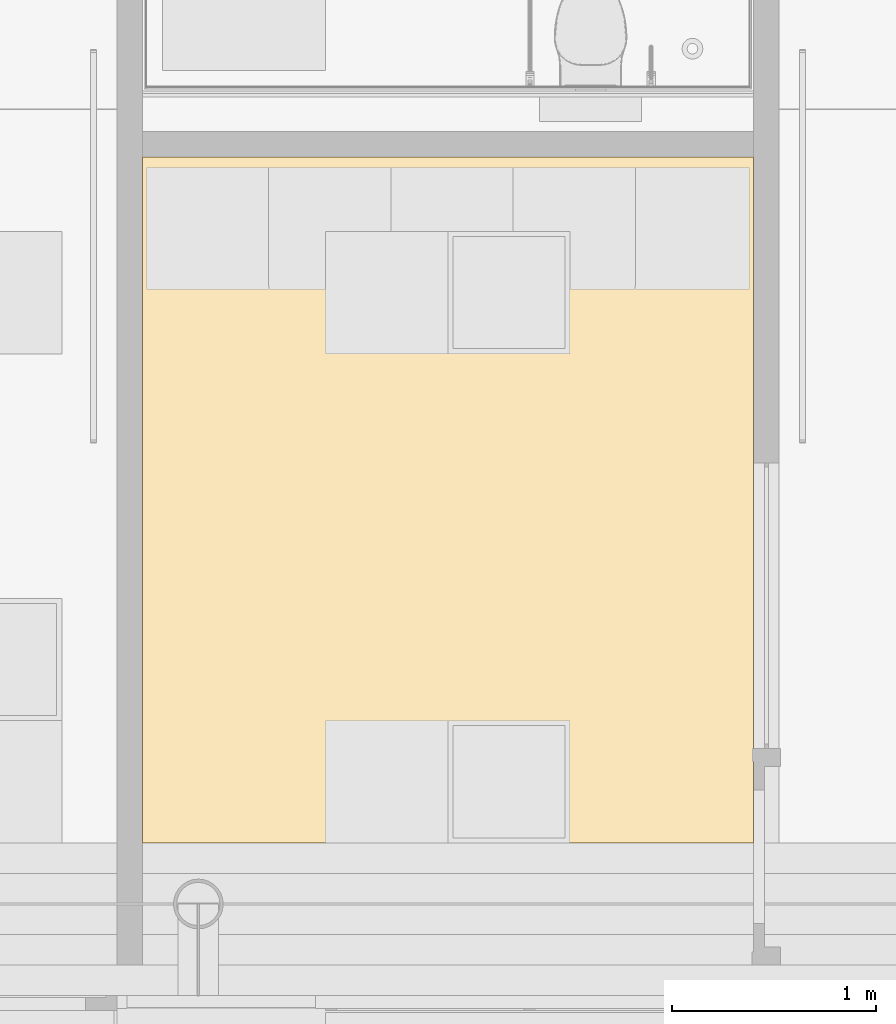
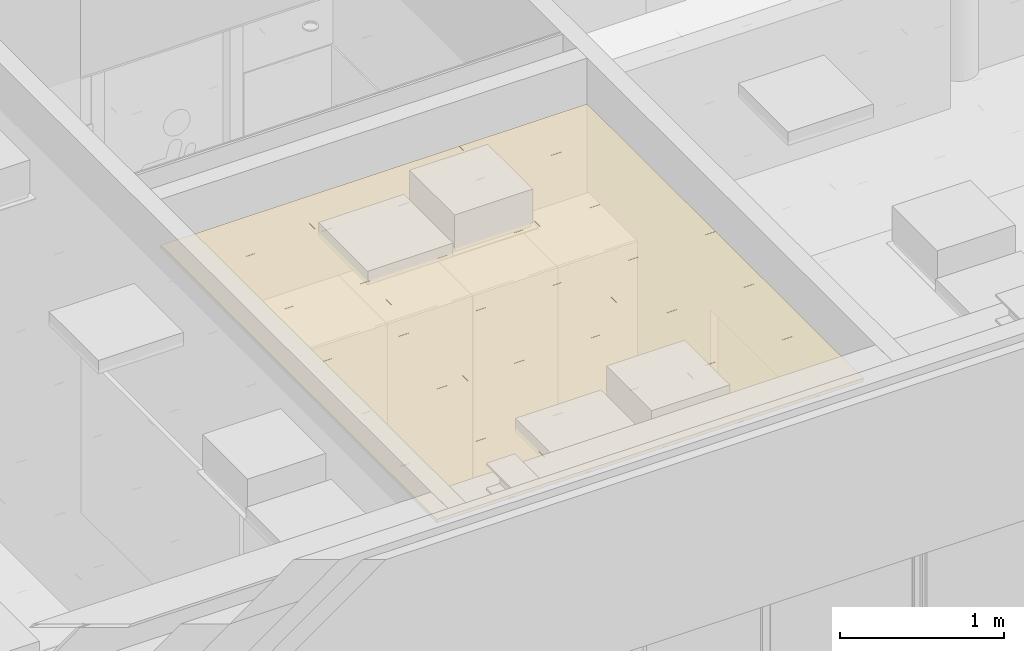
# One storey, part 162 of 347: 1 covering.
"""IFC2X3 building model written with IfcOpenShell, lengths in millimetres."""

from ifc_helpers import new_model, entity, si_unit, converted_unit, derived_unit, money_unit, direction, frame, origin_with_axes, place, context, subcontext, project, spatial, faceted_brep, type_object, element, save


model = new_model("IFC2X3")

# Units and contexts
model_context = context("Model", 3, precision=0.01, world=origin_with_axes(), true_north=direction((0.0, 1.0)))
plan_context = context("Plan", 3, precision=0.01, world=origin_with_axes(), true_north=direction((0.0, 1.0)))
body_context = subcontext(model_context, "Body", "Model", "MODEL_VIEW")
ifc_project = project(units=[si_unit("LENGTHUNIT", "METRE", prefix="MILLI"), si_unit("AREAUNIT", "SQUARE_METRE"), si_unit("VOLUMEUNIT", "CUBIC_METRE"), converted_unit("PLANEANGLEUNIT", "DEGREE", entity("IfcPlaneAngleMeasure", 0.0174532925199), si_unit("PLANEANGLEUNIT", "RADIAN"), dimensions=[0, 0, 0, 0, 0, 0, 0]), money_unit("EUR"), converted_unit("TIMEUNIT", "Year", entity("IfcTimeMeasure", 31556926.0), si_unit("TIMEUNIT", "SECOND"), dimensions=[0, 0, 1, 0, 0, 0, 0]), si_unit("MASSUNIT", "GRAM", prefix="KILO"), si_unit("THERMODYNAMICTEMPERATUREUNIT", "DEGREE_CELSIUS"), si_unit("LUMINOUSINTENSITYUNIT", "LUMEN"), si_unit("ENERGYUNIT", "JOULE", prefix="MEGA"), derived_unit("THERMALCONDUCTANCEUNIT", [(si_unit("POWERUNIT", "WATT"), 1), (si_unit("LENGTHUNIT", "METRE"), -1), (si_unit("THERMODYNAMICTEMPERATUREUNIT", "KELVIN"), -1)]), derived_unit("SPECIFICHEATCAPACITYUNIT", [(si_unit("ENERGYUNIT", "JOULE"), 1), (si_unit("MASSUNIT", "GRAM", prefix="KILO"), -1), (si_unit("THERMODYNAMICTEMPERATUREUNIT", "KELVIN"), -1)]), derived_unit("MASSDENSITYUNIT", [(si_unit("MASSUNIT", "GRAM", prefix="KILO"), 1), (si_unit("VOLUMEUNIT", "CUBIC_METRE"), -1)])], contexts=[model_context, plan_context])

# Site, building, storey
site_placement = place(None, origin_with_axes())
site = spatial("IfcSite", under=ifc_project, at=site_placement, Name="Site", CompositionType="ELEMENT")
building_placement = place(site_placement, origin_with_axes())
building = spatial("IfcBuilding", under=site, at=building_placement, Name="Naam gebouw", CompositionType="ELEMENT")
storey_placement = place(building_placement, origin_with_axes())
storey = spatial("IfcBuildingStorey", under=building, at=storey_placement, Name="begane grond", CompositionType="ELEMENT", Elevation=0.0)

# Covering
covering_type = type_object("IfcCoveringType", Name="Ceiling Editor INT_v2.01", PredefinedType="CEILING")
covering_placement = place(storey_placement, frame((24300.0, 5599.99997201, 3200.0), z_axis=(0.0, 0.0, 1.0), x_axis=(1.0, 0.0, 0.0)))
element("IfcCovering", 1, at=covering_placement, inside=storey, type_object=covering_type, Name="45 Plafondafwerkingen_77 garderobe", PredefinedType="CEILING", context=body_context, shape_type="Brep", body=[
    faceted_brep([(0.0, 599.9, 0.0), (0.0, 599.9, 20.0), (899.9, 599.9, 20.0), (899.9, 599.9, 0.0), (0.0, 0.100000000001, 0.0), (0.0, 0.100000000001, 20.0), (899.9, 0.100000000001, 20.0), (899.9, 0.100000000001, 0.0)], [[[0, 1, 2, 3]], [[1, 0, 4, 5]], [[1, 5, 6, 2]], [[6, 7, 3, 2]], [[4, 0, 3, 7]], [[5, 4, 7, 6]]]),
    faceted_brep([(0.0, 1199.9, 0.0), (0.0, 1199.9, 20.0), (899.9, 1199.9, 20.0), (899.9, 1199.9, 0.0), (0.0, 841.250006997, 0.0), (0.0, 841.250006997, 20.0), (0.0, 600.1, 20.0), (899.9, 600.1, 20.0), (899.9, 600.1, 0.0), (0.0, 600.1, 0.0)], [[[0, 1, 2, 3]], [[1, 0, 4, 5]], [[5, 6, 7, 2, 1]], [[7, 8, 3, 2]], [[4, 0, 3, 8, 9]], [[6, 5, 4, 9]], [[6, 9, 8, 7]]]),
    faceted_brep([(0.0, 1799.9, 0.0), (0.0, 1799.9, 20.0), (899.9, 1799.9, 20.0), (899.9, 1799.9, 0.0), (0.0, 1682.50001399, 0.0), (0.0, 1682.50001399, 20.0), (0.0, 1200.1, 20.0), (899.9, 1200.1, 20.0), (899.9, 1200.1, 0.0), (0.0, 1200.1, 0.0)], [[[0, 1, 2, 3]], [[1, 0, 4, 5]], [[5, 6, 7, 2, 1]], [[7, 8, 3, 2]], [[4, 0, 3, 8, 9]], [[6, 5, 4, 9]], [[6, 9, 8, 7]]]),
    faceted_brep([(0.0, 2399.9, 0.0), (0.0, 2399.9, 20.0), (899.9, 2399.9, 20.0), (899.9, 2399.9, 0.0), (0.0, 1800.1, 0.0), (0.0, 1800.1, 20.0), (899.9, 1800.1, 20.0), (899.9, 1800.1, 0.0)], [[[0, 1, 2, 3]], [[1, 0, 4, 5]], [[1, 5, 6, 2]], [[6, 7, 3, 2]], [[4, 0, 3, 7]], [[5, 4, 7, 6]]]),
    faceted_brep([(0.0, 2999.9, 0.0), (0.0, 2999.9, 20.0), (899.9, 2999.9, 20.0), (899.9, 2999.9, 0.0), (0.0, 2523.75002099, 0.0), (0.0, 2523.75002099, 20.0), (0.0, 2400.1, 20.0), (899.9, 2400.1, 20.0), (899.9, 2400.1, 0.0), (0.0, 2400.1, 0.0)], [[[0, 1, 2, 3]], [[1, 0, 4, 5]], [[5, 6, 7, 2, 1]], [[7, 8, 3, 2]], [[4, 0, 3, 8, 9]], [[6, 5, 4, 9]], [[6, 9, 8, 7]]]),
    faceted_brep([(899.9, 3365.00002799, 0.0), (899.9, 3365.00002799, 20.0), (899.9, 3000.1, 20.0), (899.9, 3000.1, 0.0), (750.0, 3365.00002799, 0.0), (750.0, 3365.00002799, 20.0), (0.0, 3365.00002799, 20.0), (0.0, 3000.1, 20.0), (0.0, 3000.1, 0.0), (0.0, 3365.00002799, 0.0)], [[[0, 1, 2, 3]], [[1, 0, 4, 5]], [[6, 7, 2, 1, 5]], [[7, 8, 3, 2]], [[4, 0, 3, 8, 9]], [[6, 5, 4, 9]], [[7, 6, 9, 8]]]),
    faceted_brep([(2099.9, 0.100000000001, 20.0), (2099.9, 0.100000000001, 0.0), (2099.9, 599.9, 0.0), (2099.9, 599.9, 20.0), (900.1, 0.100000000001, 20.0), (900.1, 0.100000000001, 0.0), (900.1, 599.9, 0.0), (900.1, 599.9, 20.0)], [[[0, 1, 2, 3]], [[4, 5, 1, 0]], [[2, 1, 5, 6]], [[3, 2, 6, 7]], [[4, 0, 3, 7]], [[7, 6, 5, 4]]]),
    faceted_brep([(2099.9, 600.1, 20.0), (2099.9, 600.1, 0.0), (2099.9, 1199.9, 0.0), (2099.9, 1199.9, 20.0), (900.1, 600.1, 20.0), (900.1, 600.1, 0.0), (900.1, 1199.9, 0.0), (900.1, 1199.9, 20.0)], [[[0, 1, 2, 3]], [[4, 5, 1, 0]], [[2, 1, 5, 6]], [[3, 2, 6, 7]], [[4, 0, 3, 7]], [[7, 6, 5, 4]]]),
    faceted_brep([(2099.9, 1200.1, 20.0), (2099.9, 1200.1, 0.0), (2099.9, 1799.9, 0.0), (2099.9, 1799.9, 20.0), (900.1, 1200.1, 20.0), (900.1, 1200.1, 0.0), (900.1, 1799.9, 0.0), (900.1, 1799.9, 20.0)], [[[0, 1, 2, 3]], [[4, 5, 1, 0]], [[2, 1, 5, 6]], [[3, 2, 6, 7]], [[4, 0, 3, 7]], [[7, 6, 5, 4]]]),
    faceted_brep([(2099.9, 1800.1, 20.0), (2099.9, 1800.1, 0.0), (2099.9, 2399.9, 0.0), (2099.9, 2399.9, 20.0), (900.1, 1800.1, 20.0), (900.1, 1800.1, 0.0), (900.1, 2399.9, 0.0), (900.1, 2399.9, 20.0)], [[[0, 1, 2, 3]], [[4, 5, 1, 0]], [[2, 1, 5, 6]], [[3, 2, 6, 7]], [[4, 0, 3, 7]], [[7, 6, 5, 4]]]),
    faceted_brep([(2099.9, 2400.1, 20.0), (2099.9, 2400.1, 0.0), (2099.9, 2999.9, 0.0), (2099.9, 2999.9, 20.0), (900.1, 2400.1, 20.0), (900.1, 2400.1, 0.0), (900.1, 2999.9, 0.0), (900.1, 2999.9, 20.0)], [[[0, 1, 2, 3]], [[4, 5, 1, 0]], [[2, 1, 5, 6]], [[3, 2, 6, 7]], [[4, 0, 3, 7]], [[7, 6, 5, 4]]]),
    faceted_brep([(2099.9, 3365.00002799, 0.0), (2099.9, 3365.00002799, 20.0), (2099.9, 3000.1, 20.0), (2099.9, 3000.1, 0.0), (1500.0, 3365.00002799, 0.0), (1500.0, 3365.00002799, 20.0), (900.1, 3365.00002799, 20.0), (900.1, 3000.1, 20.0), (900.1, 3000.1, 0.0), (900.1, 3365.00002799, 0.0)], [[[0, 1, 2, 3]], [[1, 0, 4, 5]], [[5, 6, 7, 2, 1]], [[7, 8, 3, 2]], [[4, 0, 3, 8, 9]], [[6, 5, 4, 9]], [[6, 9, 8, 7]]]),
    faceted_brep([(3000.0, 0.100000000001, 20.0), (3000.0, 599.9, 20.0), (2100.1, 599.9, 20.0), (2100.1, 0.100000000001, 20.0), (3000.0, 0.100000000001, 0.0), (3000.0, 599.9, 0.0), (2100.1, 599.9, 0.0), (2100.1, 0.100000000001, 0.0)], [[[0, 1, 2, 3]], [[1, 0, 4, 5]], [[1, 5, 6, 2]], [[2, 6, 7, 3]], [[4, 0, 3, 7]], [[5, 4, 7, 6]]]),
    faceted_brep([(3000.0, 841.250006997, 20.0), (3000.0, 1199.9, 20.0), (2100.1, 1199.9, 20.0), (2100.1, 600.1, 20.0), (3000.0, 600.1, 20.0), (3000.0, 841.250006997, 0.0), (3000.0, 1199.9, 0.0), (2100.1, 1199.9, 0.0), (2100.1, 600.1, 0.0), (3000.0, 600.1, 0.0)], [[[0, 1, 2, 3, 4]], [[1, 0, 5, 6]], [[1, 6, 7, 2]], [[2, 7, 8, 3]], [[9, 4, 3, 8]], [[0, 4, 9, 5]], [[5, 9, 8, 7, 6]]]),
    faceted_brep([(3000.0, 1682.50001399, 20.0), (3000.0, 1799.9, 20.0), (2100.1, 1799.9, 20.0), (2100.1, 1200.1, 20.0), (3000.0, 1200.1, 20.0), (3000.0, 1682.50001399, 0.0), (3000.0, 1799.9, 0.0), (2100.1, 1799.9, 0.0), (2100.1, 1200.1, 0.0), (3000.0, 1200.1, 0.0)], [[[0, 1, 2, 3, 4]], [[1, 0, 5, 6]], [[1, 6, 7, 2]], [[2, 7, 8, 3]], [[9, 4, 3, 8]], [[0, 4, 9, 5]], [[5, 9, 8, 7, 6]]]),
    faceted_brep([(3000.0, 1800.1, 20.0), (3000.0, 2399.9, 20.0), (2100.1, 2399.9, 20.0), (2100.1, 1800.1, 20.0), (3000.0, 1800.1, 0.0), (3000.0, 2399.9, 0.0), (2100.1, 2399.9, 0.0), (2100.1, 1800.1, 0.0)], [[[0, 1, 2, 3]], [[1, 0, 4, 5]], [[1, 5, 6, 2]], [[2, 6, 7, 3]], [[4, 0, 3, 7]], [[5, 4, 7, 6]]]),
    faceted_brep([(3000.0, 2523.75002099, 20.0), (3000.0, 2999.9, 20.0), (2100.1, 2999.9, 20.0), (2100.1, 2400.1, 20.0), (3000.0, 2400.1, 20.0), (3000.0, 2523.75002099, 0.0), (3000.0, 2999.9, 0.0), (2100.1, 2999.9, 0.0), (2100.1, 2400.1, 0.0), (3000.0, 2400.1, 0.0)], [[[0, 1, 2, 3, 4]], [[1, 0, 5, 6]], [[1, 6, 7, 2]], [[2, 7, 8, 3]], [[9, 4, 3, 8]], [[0, 4, 9, 5]], [[5, 9, 8, 7, 6]]]),
    faceted_brep([(3000.0, 3000.1, 20.0), (3000.0, 3365.00002799, 20.0), (2250.0, 3365.00002799, 20.0), (2100.1, 3365.00002799, 20.0), (2100.1, 3000.1, 20.0), (3000.0, 3000.1, 0.0), (3000.0, 3365.00002799, 0.0), (2250.0, 3365.00002799, 0.0), (2100.1, 3365.00002799, 0.0), (2100.1, 3000.1, 0.0)], [[[0, 1, 2, 3, 4]], [[1, 0, 5, 6]], [[2, 1, 6, 7]], [[3, 2, 7, 8]], [[3, 8, 9, 4]], [[5, 0, 4, 9]], [[6, 5, 9, 8, 7]]]),
    faceted_brep([(887.5, 25.0, -5.0), (887.5, 25.0, 0.0), (887.5, 587.5, 0.0), (887.5, 587.5, -5.0), (25.0, 25.0, -5.0), (25.0, 25.0, 0.0), (3000.0, 1187.5, 0.0), (3000.0, 1212.5, 0.0), (3000.0, 1787.5, 0.0), (3000.0, 1812.5, 0.0), (3000.0, 2387.5, 0.0), (3000.0, 2412.5, 0.0), (3000.0, 2987.5, 0.0), (3000.0, 3012.5, 0.0), (3000.0, 3365.00002799, 0.0), (2112.5, 3365.00002799, 0.0), (2087.5, 3365.00002799, 0.0), (912.5, 3365.00002799, 0.0), (887.5, 3365.00002799, 0.0), (0.0, 3365.00002799, 0.0), (0.0, 3012.5, 0.0), (0.0, 2987.5, 0.0), (0.0, 2412.5, 0.0), (0.0, 2387.5, 0.0), (0.0, 1812.5, 0.0), (0.0, 1787.5, 0.0), (0.0, 1212.5, 0.0), (0.0, 1187.5, 0.0), (0.0, 612.5, 0.0), (0.0, 587.5, 0.0), (0.0, 12.5, 0.0), (0.0, 0.0, 0.0), (750.0, 0.0, 0.0), (1500.0, 0.0, 0.0), (2250.0, 0.0, 0.0), (3000.0, 0.0, 0.0), (3000.0, 12.5, 0.0), (3000.0, 587.5, 0.0), (3000.0, 612.5, 0.0), (912.5, 25.0, 0.0), (912.5, 587.5, 0.0), (2087.5, 587.5, 0.0), (2087.5, 25.0, 0.0), (912.5, 1187.5, 0.0), (2087.5, 1187.5, 0.0), (2087.5, 612.5, 0.0), (912.5, 612.5, 0.0), (912.5, 1787.5, 0.0), (2087.5, 1787.5, 0.0), (2087.5, 1212.5, 0.0), (912.5, 1212.5, 0.0), (912.5, 2387.5, 0.0), (2087.5, 2387.5, 0.0), (2087.5, 1812.5, 0.0), (912.5, 1812.5, 0.0), (912.5, 2987.5, 0.0), (2087.5, 2987.5, 0.0), (2087.5, 2412.5, 0.0), (912.5, 2412.5, 0.0), (25.0, 587.5, 0.0), (25.0, 1187.5, 0.0), (887.5, 1187.5, 0.0), (887.5, 612.5, 0.0), (25.0, 612.5, 0.0), (25.0, 1787.5, 0.0), (887.5, 1787.5, 0.0), (887.5, 1212.5, 0.0), (25.0, 1212.5, 0.0), (25.0, 2387.5, 0.0), (887.5, 2387.5, 0.0), (887.5, 1812.5, 0.0), (25.0, 1812.5, 0.0), (25.0, 2987.5, 0.0), (887.5, 2987.5, 0.0), (887.5, 2412.5, 0.0), (25.0, 2412.5, 0.0), (887.5, 3340.00002799, 0.0), (887.5, 3012.5, 0.0), (25.0, 3012.5, 0.0), (25.0, 3340.00002799, 0.0), (2087.5, 3340.00002799, 0.0), (2087.5, 3012.5, 0.0), (912.5, 3012.5, 0.0), (912.5, 3340.00002799, 0.0), (2975.0, 3340.00002799, 0.0), (2975.0, 3012.5, 0.0), (2112.5, 3012.5, 0.0), (2112.5, 3340.00002799, 0.0), (2975.0, 2387.5, 0.0), (2975.0, 1812.5, 0.0), (2112.5, 1812.5, 0.0), (2112.5, 2387.5, 0.0), (2975.0, 2412.5, 0.0), (2112.5, 2412.5, 0.0), (2112.5, 2987.5, 0.0), (2975.0, 2987.5, 0.0), (2975.0, 1212.5, 0.0), (2112.5, 1212.5, 0.0), (2112.5, 1787.5, 0.0), (2975.0, 1787.5, 0.0), (2112.5, 25.0, 0.0), (2112.5, 587.5, 0.0), (2975.0, 587.5, 0.0), (2975.0, 25.0, 0.0), (2975.0, 612.5, 0.0), (2112.5, 612.5, 0.0), (2112.5, 1187.5, 0.0), (2975.0, 1187.5, 0.0), (25.0, 587.5, -5.0), (3000.0, 612.5, -5.0), (3000.0, 587.5, -5.0), (3000.0, 12.5, -5.0), (3000.0, 0.0, -5.0), (2250.0, 0.0, -5.0), (1500.0, 0.0, -5.0), (750.0, 0.0, -5.0), (0.0, 0.0, -5.0), (0.0, 12.5, -5.0), (0.0, 587.5, -5.0), (0.0, 612.5, -5.0), (0.0, 1187.5, -5.0), (0.0, 1212.5, -5.0), (0.0, 1787.5, -5.0), (0.0, 1812.5, -5.0), (0.0, 2387.5, -5.0), (0.0, 2412.5, -5.0), (0.0, 2987.5, -5.0), (0.0, 3012.5, -5.0), (0.0, 3365.00002799, -5.0), (887.5, 3365.00002799, -5.0), (912.5, 3365.00002799, -5.0), (2087.5, 3365.00002799, -5.0), (2112.5, 3365.00002799, -5.0), (3000.0, 3365.00002799, -5.0), (3000.0, 3012.5, -5.0), (3000.0, 2987.5, -5.0), (3000.0, 2412.5, -5.0), (3000.0, 2387.5, -5.0), (3000.0, 1812.5, -5.0), (3000.0, 1787.5, -5.0), (3000.0, 1212.5, -5.0), (3000.0, 1187.5, -5.0), (2087.5, 25.0, -5.0), (2087.5, 587.5, -5.0), (912.5, 587.5, -5.0), (912.5, 25.0, -5.0), (2087.5, 612.5, -5.0), (2087.5, 1187.5, -5.0), (912.5, 1187.5, -5.0), (912.5, 612.5, -5.0), (2087.5, 1212.5, -5.0), (2087.5, 1787.5, -5.0), (912.5, 1787.5, -5.0), (912.5, 1212.5, -5.0), (2087.5, 1812.5, -5.0), (2087.5, 2387.5, -5.0), (912.5, 2387.5, -5.0), (912.5, 1812.5, -5.0), (2087.5, 2412.5, -5.0), (2087.5, 2987.5, -5.0), (912.5, 2987.5, -5.0), (912.5, 2412.5, -5.0), (25.0, 1187.5, -5.0), (25.0, 612.5, -5.0), (887.5, 612.5, -5.0), (887.5, 1187.5, -5.0), (25.0, 1787.5, -5.0), (25.0, 1212.5, -5.0), (887.5, 1212.5, -5.0), (887.5, 1787.5, -5.0), (25.0, 2387.5, -5.0), (25.0, 1812.5, -5.0), (887.5, 1812.5, -5.0), (887.5, 2387.5, -5.0), (25.0, 2987.5, -5.0), (25.0, 2412.5, -5.0), (887.5, 2412.5, -5.0), (887.5, 2987.5, -5.0), (887.5, 3340.00002799, -5.0), (25.0, 3340.00002799, -5.0), (25.0, 3012.5, -5.0), (887.5, 3012.5, -5.0), (2087.5, 3340.00002799, -5.0), (912.5, 3340.00002799, -5.0), (912.5, 3012.5, -5.0), (2087.5, 3012.5, -5.0), (2975.0, 3340.00002799, -5.0), (2112.5, 3340.00002799, -5.0), (2112.5, 3012.5, -5.0), (2975.0, 3012.5, -5.0), (2975.0, 2387.5, -5.0), (2112.5, 2387.5, -5.0), (2112.5, 1812.5, -5.0), (2975.0, 1812.5, -5.0), (2975.0, 2987.5, -5.0), (2112.5, 2987.5, -5.0), (2112.5, 2412.5, -5.0), (2975.0, 2412.5, -5.0), (2975.0, 1787.5, -5.0), (2112.5, 1787.5, -5.0), (2112.5, 1212.5, -5.0), (2975.0, 1212.5, -5.0), (2975.0, 25.0, -5.0), (2975.0, 587.5, -5.0), (2112.5, 587.5, -5.0), (2112.5, 25.0, -5.0), (2975.0, 1187.5, -5.0), (2112.5, 1187.5, -5.0), (2112.5, 612.5, -5.0), (2975.0, 612.5, -5.0)], [[[0, 1, 2, 3]], [[1, 0, 4, 5]], [[6, 7, 8, 9, 10, 11, 12, 13, 14, 15, 16, 17, 18, 19, 20, 21, 22, 23, 24, 25, 26, 27, 28, 29, 30, 31, 32, 33, 34, 35, 36, 37, 38], [39, 40, 41, 42], [43, 44, 45, 46], [47, 48, 49, 50], [51, 52, 53, 54], [55, 56, 57, 58], [1, 5, 59, 2], [60, 61, 62, 63], [64, 65, 66, 67], [68, 69, 70, 71], [72, 73, 74, 75], [76, 77, 78, 79], [80, 81, 82, 83], [84, 85, 86, 87], [88, 89, 90, 91], [92, 93, 94, 95], [96, 97, 98, 99], [100, 101, 102, 103], [104, 105, 106, 107]], [[59, 108, 3, 2]], [[109, 110, 111, 112, 113, 114, 115, 116, 117, 118, 119, 120, 121, 122, 123, 124, 125, 126, 127, 128, 129, 130, 131, 132, 133, 134, 135, 136, 137, 138, 139, 140, 141], [142, 143, 144, 145], [146, 147, 148, 149], [150, 151, 152, 153], [154, 155, 156, 157], [158, 159, 160, 161], [0, 3, 108, 4], [162, 163, 164, 165], [166, 167, 168, 169], [170, 171, 172, 173], [174, 175, 176, 177], [178, 179, 180, 181], [182, 183, 184, 185], [186, 187, 188, 189], [190, 191, 192, 193], [194, 195, 196, 197], [198, 199, 200, 201], [202, 203, 204, 205], [206, 207, 208, 209]], [[108, 59, 5, 4]], [[109, 141, 140, 139, 138, 137, 136, 135, 134, 133, 14, 13, 12, 11, 10, 9, 8, 7, 6, 38, 37, 36, 35, 112, 111, 110]], [[14, 133, 132, 131, 130, 129, 128, 19, 18, 17, 16, 15]], [[19, 128, 127, 126, 125, 124, 123, 122, 121, 120, 119, 118, 117, 116, 31, 30, 29, 28, 27, 26, 25, 24, 23, 22, 21, 20]], [[116, 115, 32, 31]], [[114, 33, 32, 115]], [[113, 34, 33, 114]], [[113, 112, 35, 34]], [[39, 145, 144, 40]], [[144, 143, 41, 40]], [[142, 42, 41, 143]], [[39, 42, 142, 145]], [[148, 147, 44, 43]], [[45, 44, 147, 146]], [[46, 45, 146, 149]], [[149, 148, 43, 46]], [[152, 151, 48, 47]], [[49, 48, 151, 150]], [[50, 49, 150, 153]], [[153, 152, 47, 50]], [[156, 155, 52, 51]], [[53, 52, 155, 154]], [[54, 53, 154, 157]], [[157, 156, 51, 54]], [[160, 159, 56, 55]], [[57, 56, 159, 158]], [[58, 57, 158, 161]], [[161, 160, 55, 58]], [[60, 162, 165, 61]], [[62, 61, 165, 164]], [[163, 63, 62, 164]], [[162, 60, 63, 163]], [[64, 166, 169, 65]], [[66, 65, 169, 168]], [[167, 67, 66, 168]], [[166, 64, 67, 167]], [[68, 170, 173, 69]], [[70, 69, 173, 172]], [[171, 71, 70, 172]], [[170, 68, 71, 171]], [[72, 174, 177, 73]], [[74, 73, 177, 176]], [[175, 75, 74, 176]], [[174, 72, 75, 175]], [[76, 178, 181, 77]], [[180, 78, 77, 181]], [[179, 79, 78, 180]], [[178, 76, 79, 179]], [[80, 182, 185, 81]], [[82, 81, 185, 184]], [[183, 83, 82, 184]], [[182, 80, 83, 183]], [[84, 186, 189, 85]], [[85, 189, 188, 86]], [[187, 87, 86, 188]], [[186, 84, 87, 187]], [[88, 190, 193, 89]], [[89, 193, 192, 90]], [[192, 191, 91, 90]], [[190, 88, 91, 191]], [[92, 197, 196, 93]], [[196, 195, 94, 93]], [[194, 95, 94, 195]], [[92, 95, 194, 197]], [[96, 201, 200, 97]], [[200, 199, 98, 97]], [[198, 99, 98, 199]], [[96, 99, 198, 201]], [[100, 205, 204, 101]], [[203, 102, 101, 204]], [[202, 103, 102, 203]], [[100, 103, 202, 205]], [[104, 209, 208, 105]], [[208, 207, 106, 105]], [[206, 107, 106, 207]], [[104, 107, 206, 209]]]),
])

save(model, "model.ifc")
